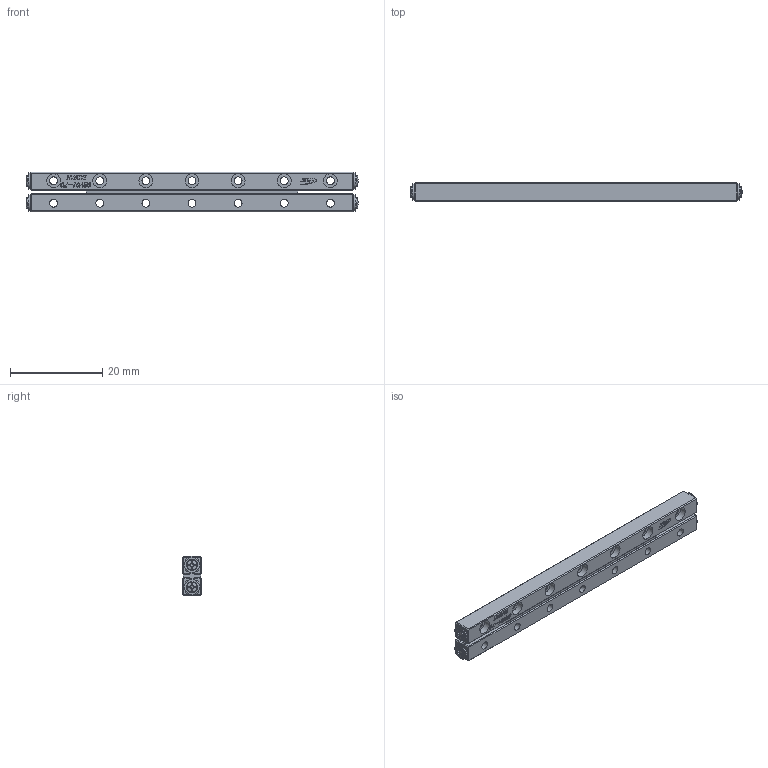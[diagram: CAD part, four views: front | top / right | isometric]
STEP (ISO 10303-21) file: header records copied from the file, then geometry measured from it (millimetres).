
FILE_DESCRIPTION (( 'STEP AP203' ), '1' );
FILE_NAME ('GRV01-70.STEP', '2023-07-31T03:15:11', ( '' ), ( '' ), 'SwSTEP 2.0', 'SolidWorks 2019', '' );
FILE_SCHEMA (( 'CONFIG_CONTROL_DESIGN' ));
Length unit declared in the file: millimetre
Products named in the file (3): GRVP01-70-模糊化保持器組; GRV01-70-模糊化軌道; GRV01-70
Assembly tree (3 placements, depth 2):
  GRV01-70
    GRV01-70-模糊化軌道  x2
    GRVP01-70-模糊化保持器組
Bounding box: 71.96 x 4 x 8.5 mm (x, y, z)
Volume: 1974.5 mm3; surface area: 3301.3 mm2
Topology: 3 solids, 7 shells, 1284 faces, 3314 edges, 2164 vertices
Faces by surface type: plane 884, bspline 214, cylinder 100, torus 42, cone 40, sphere 4
Full cylindrical faces by diameter (mm): 1.4 x4, 1.7 x14, 2.5 x4, 3 x14, 3.5 x4
Entity records: 24855 total; most frequent: CARTESIAN_POINT 7120, ORIENTED_EDGE 3804, DIRECTION 3070, EDGE_CURVE 1902, LINE 1330, VECTOR 1330, VERTEX_POINT 1262, EDGE_LOOP 900
